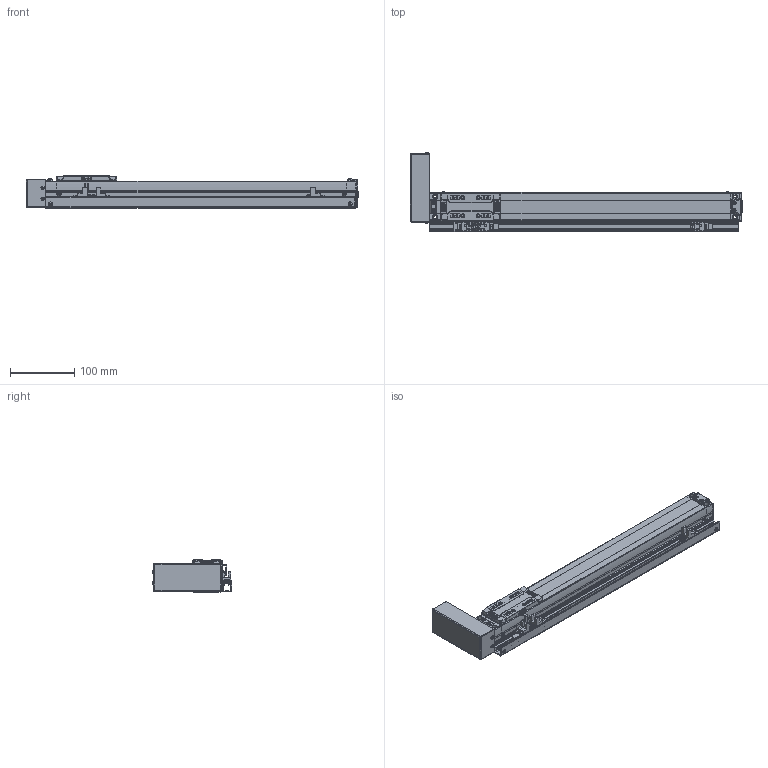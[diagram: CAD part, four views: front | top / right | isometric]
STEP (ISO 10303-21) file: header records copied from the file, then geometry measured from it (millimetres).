
FILE_DESCRIPTION(('STEP AP214'),'1');
FILE_NAME('Z:/Web/3D/SAN45/2013.ver/STP/SAN45ㅁㅁ-350PL+3SR.stp','2013-05-15T09:03:25',(' '),(' '),'Spatial InterOp 3D',' ',' ');
FILE_SCHEMA(('automotive_design'));
Length unit declared in the file: millimetre
Products named in the file (46): BODY-SAN45; REAR-SAN45; RRCV-SAN45; BHCS M3 x 6L; BHCS M3 X 6L; FRONT-SAN45; SHAFT; RN8 x 0.75; SSFX-SAN45; SLIDE-SAN45; SLCV-IM45; FHCS M3 x 6L; BTCV-SAN45; SRL-16x17-380L; EE-SX674; SBK-SX674-352; SDG-SA45; SCREW M3 x 5L
Bounding box: 516.15 x 123.06 x 50 mm (x, y, z)
Volume: 1071410.2 mm3; surface area: 221969.2 mm2
Topology: 46 solids, 46 shells, 2339 faces, 6039 edges, 3874 vertices
Faces by surface type: plane 1288, cylinder 733, cone 152, sphere 84, bspline 44, torus 32, extrusion 6
Entity records: 94659 total; most frequent: CARTESIAN_POINT 16864, DIRECTION 12568, ORIENTED_EDGE 11926, EDGE_CURVE 5963, AXIS2_PLACEMENT_3D 4391, VERTEX_POINT 3874, VECTOR 3786, LINE 3780
